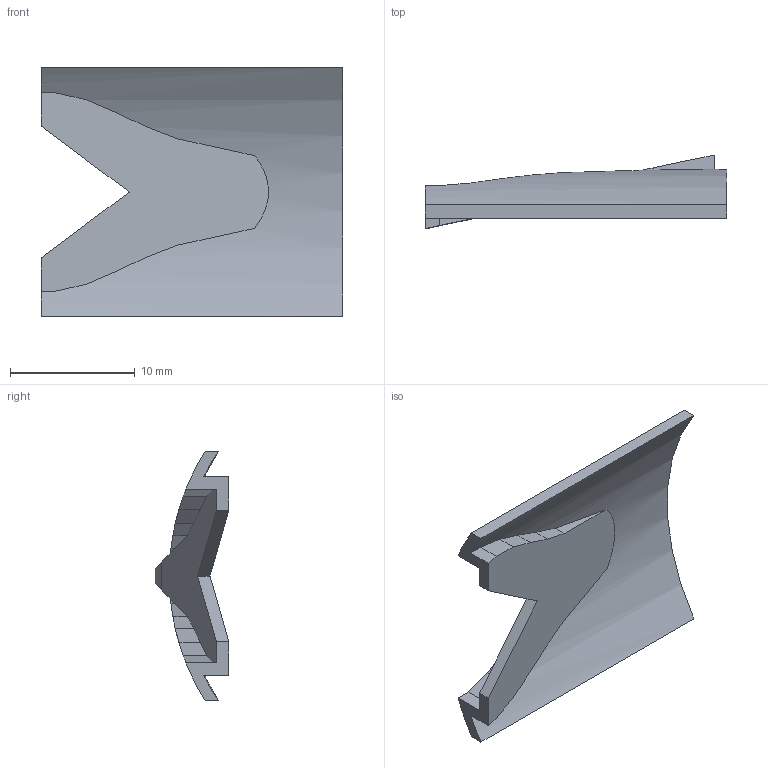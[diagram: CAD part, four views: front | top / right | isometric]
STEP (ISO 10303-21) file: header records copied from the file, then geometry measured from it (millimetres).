
FILE_DESCRIPTION(('SkyG Speed 90B - revision C6B-1 - 2026-10-07','DO-outlet-main-right'),'2;1');
FILE_NAME('DO-outlet-main-right_C6B-1','2026-10-07T21:43:16',('Author'),( 'Open CASCADE'),'Open CASCADE STEP processor 7.9','Open CASCADE 7.9' ,'Unknown');
FILE_SCHEMA(('AUTOMOTIVE_DESIGN { 1 0 10303 214 1 1 1 1 }'));
Length unit declared in the file: millimetre
Products named in the file (1): DO-outlet-main-right C6B-1
Bounding box: 24.16 x 5.9 x 20 mm (x, y, z)
Volume: 486.1 mm3; surface area: 1147.9 mm2
Topology: 1 solids, 1 shells, 45 faces, 127 edges, 84 vertices
Faces by surface type: plane 26, bspline 17, cylinder 2
Entity records: 4190 total; most frequent: CARTESIAN_POINT 2134, ORIENTED_EDGE 254, PCURVE 254, DEFINITIONAL_REPRESENTATION 254, B_SPLINE_CURVE_WITH_KNOTS 236, DIRECTION 209, LINE 131, VECTOR 131
